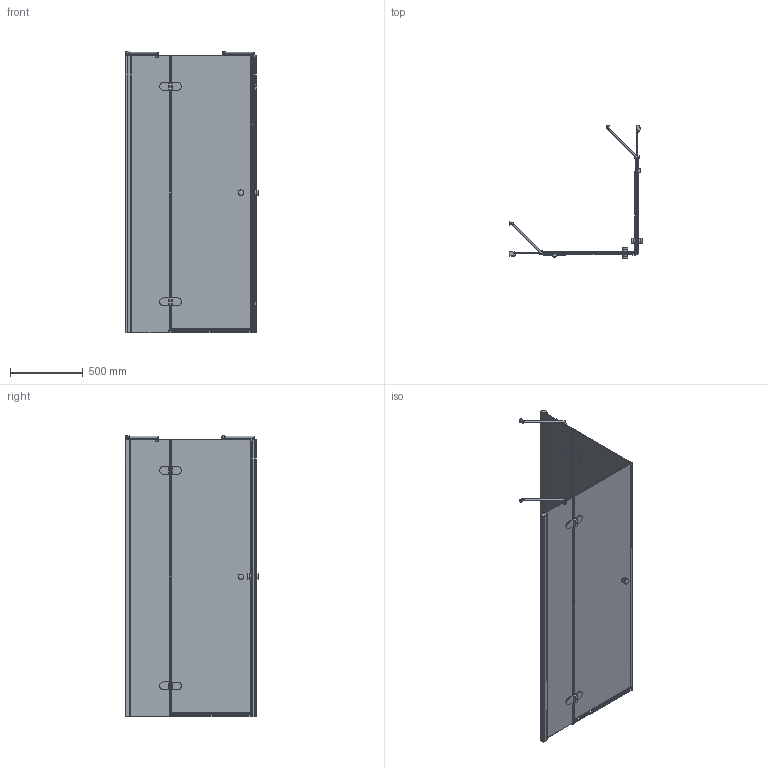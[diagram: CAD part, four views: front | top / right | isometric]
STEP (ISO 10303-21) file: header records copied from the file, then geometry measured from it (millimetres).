
FILE_DESCRIPTION(/* description */ (''),/* implementation_level */ '2;1');
FILE_NAME(/* name */ 'E:\Работа\Сергей\Душевые кабинки\! Работа\777\LUX SQUARE GK-104\LUX SQUARE GK-104-3D.stp',/* time_stamp */ '2018-04-22T09:36:29+03:00',/* author */ ('PC'),/* organization */ (''),/* preprocessor_version */ 'ST-DEVELOPER v15.2',/* originating_system */ 'Autodesk Inventor 2014',/* authorisation */ '');
FILE_SCHEMA (('AUTOMOTIVE_DESIGN { 1 0 10303 214 3 1 1 }'));
Length unit declared in the file: millimetre
Products named in the file (1): LUX SQUARE GK-104-3D
Bounding box: 917 x 917 x 1931.5 mm (x, y, z)
Volume: 23983320.1 mm3; surface area: 7388084.2 mm2
Topology: 7 solids, 7 shells, 1014 faces, 2477 edges, 1511 vertices
Faces by surface type: plane 737, cylinder 238, torus 24, sphere 10, bspline 5
Full cylindrical faces by diameter (mm): 12 x2, 15 x2, 20 x4, 26 x2, 38 x8
Entity records: 30425 total; most frequent: CARTESIAN_POINT 5807, DIRECTION 4888, ORIENTED_EDGE 4854, EDGE_CURVE 2427, LINE 1846, VECTOR 1846, AXIS2_PLACEMENT_3D 1521, VERTEX_POINT 1491
